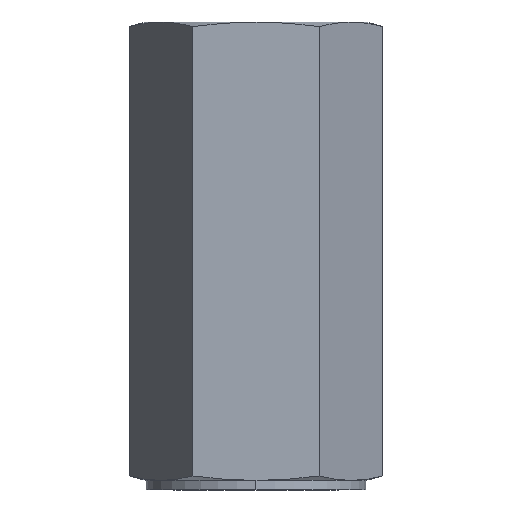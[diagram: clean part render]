
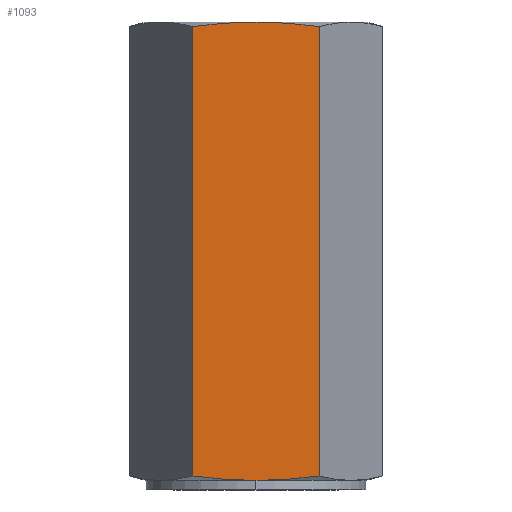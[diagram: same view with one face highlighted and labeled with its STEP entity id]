
A CAD part, left-side view. The second image highlights one B-rep face of the part: STEP entity #1093.
In plain terms, the highlighted planar face has unit normal (-1, 0, 0).
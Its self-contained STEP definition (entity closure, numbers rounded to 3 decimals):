
#235=CARTESIAN_POINT('',(-23.,-13.279,2.953));
#240=DIRECTION('',(0.,0.,1.));
#241=VECTOR('',#240,94.093);
#242=CARTESIAN_POINT('',(-23.,-13.279,2.953));
#243=LINE('',#242,#241);
#262=CARTESIAN_POINT('',(-23.,-13.279,97.047));
#287=CARTESIAN_POINT('',(-23.,-13.279,2.953));
#288=CARTESIAN_POINT('',(-23.,-12.928,2.906));
#289=CARTESIAN_POINT('',(-23.,-12.231,2.816));
#290=CARTESIAN_POINT('',(-23.,-11.199,2.69));
#291=CARTESIAN_POINT('',(-23.,-10.176,2.575));
#292=CARTESIAN_POINT('',(-23.,-9.159,2.469));
#293=CARTESIAN_POINT('',(-23.,-8.145,2.373));
#294=CARTESIAN_POINT('',(-23.,-7.132,2.288));
#295=CARTESIAN_POINT('',(-23.,-6.12,2.213));
#296=CARTESIAN_POINT('',(-23.,-5.105,2.148));
#297=CARTESIAN_POINT('',(-23.,-4.089,2.095));
#298=CARTESIAN_POINT('',(-23.,-3.069,2.053));
#299=CARTESIAN_POINT('',(-23.,-2.048,2.022));
#300=CARTESIAN_POINT('',(-23.,-1.024,2.004));
#301=CARTESIAN_POINT('',(-23.,-0.342,2.));
#302=CARTESIAN_POINT('',(-23.,0.,2.));
#307=CARTESIAN_POINT('',(-23.,0.,2.));
#308=CARTESIAN_POINT('',(-23.,0.342,2.));
#309=CARTESIAN_POINT('',(-23.,1.026,2.004));
#310=CARTESIAN_POINT('',(-23.,2.051,2.022));
#311=CARTESIAN_POINT('',(-23.,3.074,2.053));
#312=CARTESIAN_POINT('',(-23.,4.095,2.095));
#313=CARTESIAN_POINT('',(-23.,5.113,2.149));
#314=CARTESIAN_POINT('',(-23.,6.128,2.213));
#315=CARTESIAN_POINT('',(-23.,7.141,2.288));
#316=CARTESIAN_POINT('',(-23.,8.153,2.374));
#317=CARTESIAN_POINT('',(-23.,9.167,2.47));
#318=CARTESIAN_POINT('',(-23.,10.183,2.575));
#319=CARTESIAN_POINT('',(-23.,11.205,2.691));
#320=CARTESIAN_POINT('',(-23.,12.234,2.816));
#321=CARTESIAN_POINT('',(-23.,12.93,2.907));
#322=CARTESIAN_POINT('',(-23.,13.279,2.953));
#327=DIRECTION('',(0.,0.,1.));
#328=VECTOR('',#327,94.093);
#329=CARTESIAN_POINT('',(-23.,13.279,2.953));
#330=LINE('',#329,#328);
#334=CARTESIAN_POINT('',(-23.,0.,98.));
#335=CARTESIAN_POINT('',(-23.,0.342,98.));
#336=CARTESIAN_POINT('',(-23.,1.026,97.996));
#337=CARTESIAN_POINT('',(-23.,2.051,97.978));
#338=CARTESIAN_POINT('',(-23.,3.074,97.947));
#339=CARTESIAN_POINT('',(-23.,4.095,97.905));
#340=CARTESIAN_POINT('',(-23.,5.113,97.851));
#341=CARTESIAN_POINT('',(-23.,6.128,97.787));
#342=CARTESIAN_POINT('',(-23.,7.141,97.712));
#343=CARTESIAN_POINT('',(-23.,8.153,97.626));
#344=CARTESIAN_POINT('',(-23.,9.167,97.53));
#345=CARTESIAN_POINT('',(-23.,10.183,97.425));
#346=CARTESIAN_POINT('',(-23.,11.205,97.309));
#347=CARTESIAN_POINT('',(-23.,12.234,97.184));
#348=CARTESIAN_POINT('',(-23.,12.93,97.093));
#349=CARTESIAN_POINT('',(-23.,13.279,97.047));
#354=CARTESIAN_POINT('',(-23.,-13.279,97.047));
#355=CARTESIAN_POINT('',(-23.,-12.928,97.094));
#356=CARTESIAN_POINT('',(-23.,-12.231,97.184));
#357=CARTESIAN_POINT('',(-23.,-11.199,97.31));
#358=CARTESIAN_POINT('',(-23.,-10.176,97.425));
#359=CARTESIAN_POINT('',(-23.,-9.159,97.531));
#360=CARTESIAN_POINT('',(-23.,-8.145,97.627));
#361=CARTESIAN_POINT('',(-23.,-7.132,97.712));
#362=CARTESIAN_POINT('',(-23.,-6.12,97.787));
#363=CARTESIAN_POINT('',(-23.,-5.105,97.852));
#364=CARTESIAN_POINT('',(-23.,-4.089,97.905));
#365=CARTESIAN_POINT('',(-23.,-3.069,97.947));
#366=CARTESIAN_POINT('',(-23.,-2.048,97.978));
#367=CARTESIAN_POINT('',(-23.,-1.024,97.996));
#368=CARTESIAN_POINT('',(-23.,-0.342,
98.));
#369=CARTESIAN_POINT('',(-23.,0.,98.));
#374=CARTESIAN_POINT('',(-23.,13.279,2.953));
#441=CARTESIAN_POINT('',(-23.,13.279,97.047));
#857=CARTESIAN_POINT('',(-23.,0.,98.));
#858=VERTEX_POINT('',#857);
#865=VERTEX_POINT('',#235);
#867=VERTEX_POINT('',#262);
#877=VERTEX_POINT('',#374);
#879=VERTEX_POINT('',#441);
#880=VERTEX_POINT('',#302);
#1077=CARTESIAN_POINT('',(-23.,13.279,0.));
#1078=DIRECTION('',(-1.,0.,0.));
#1079=DIRECTION('',(0.,-1.,0.));
#1080=AXIS2_PLACEMENT_3D('',#1077,#1078,#1079);
#1081=PLANE('',#1080);
#1082=ORIENTED_EDGE('',*,*,#1042,.T.);
#1083=ORIENTED_EDGE('',*,*,#996,.T.);
#1085=ORIENTED_EDGE('',*,*,#1084,.T.);
#1087=ORIENTED_EDGE('',*,*,#1086,.F.);
#1089=ORIENTED_EDGE('',*,*,#1088,.F.);
#1090=ORIENTED_EDGE('',*,*,#1066,.F.);
#1091=EDGE_LOOP('',(#1082,#1083,#1085,#1087,#1089,#1090));
#1092=FACE_OUTER_BOUND('',#1091,.F.);
#303=B_SPLINE_CURVE_WITH_KNOTS('',3,(#287,#288,#289,#290,#291,#292,#293,#294,
#295,#296,#297,#298,#299,#300,#301,#302),.UNSPECIFIED.,.F.,.F.,(4,1,1,1,1,1,1,1,
1,1,1,1,1,4),(0.,0.077,0.154,0.231,
0.308,0.385,0.462,0.538,
0.615,0.692,0.769,0.846,
0.923,1.),.UNSPECIFIED.);
#323=B_SPLINE_CURVE_WITH_KNOTS('',3,(#307,#308,#309,#310,#311,#312,#313,#314,
#315,#316,#317,#318,#319,#320,#321,#322),.UNSPECIFIED.,.F.,.F.,(4,1,1,1,1,1,1,1,
1,1,1,1,1,4),(0.,0.077,0.154,0.231,
0.308,0.385,0.462,0.538,
0.615,0.692,0.769,0.846,
0.923,1.),.UNSPECIFIED.);
#350=B_SPLINE_CURVE_WITH_KNOTS('',3,(#334,#335,#336,#337,#338,#339,#340,#341,
#342,#343,#344,#345,#346,#347,#348,#349),.UNSPECIFIED.,.F.,.F.,(4,1,1,1,1,1,1,1,
1,1,1,1,1,4),(0.,0.077,0.154,0.231,
0.308,0.385,0.462,0.538,
0.615,0.692,0.769,0.846,
0.923,1.),.UNSPECIFIED.);
#370=B_SPLINE_CURVE_WITH_KNOTS('',3,(#354,#355,#356,#357,#358,#359,#360,#361,
#362,#363,#364,#365,#366,#367,#368,#369),.UNSPECIFIED.,.F.,.F.,(4,1,1,1,1,1,1,1,
1,1,1,1,1,4),(0.,0.077,0.154,0.231,
0.308,0.385,0.462,0.538,
0.615,0.692,0.769,0.846,
0.923,1.),.UNSPECIFIED.);
#996=EDGE_CURVE('',#880,#877,#323,.T.);
#1042=EDGE_CURVE('',#865,#880,#303,.T.);
#1066=EDGE_CURVE('',#865,#867,#243,.T.);
#1084=EDGE_CURVE('',#877,#879,#330,.T.);
#1086=EDGE_CURVE('',#858,#879,#350,.T.);
#1088=EDGE_CURVE('',#867,#858,#370,.T.);
#1093=ADVANCED_FACE('',(#1092),#1081,.T.);
